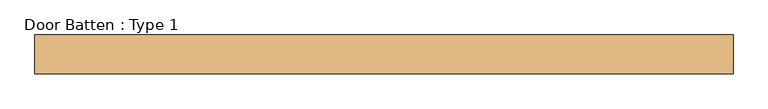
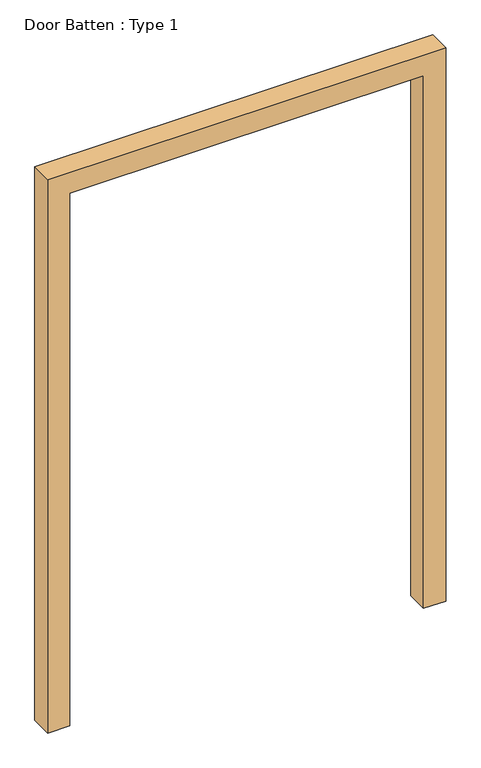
"""IFC4 building model written with IfcOpenShell, lengths in millimetres: door geometry, Door Batten : Type 1."""

from ifc_helpers import new_model, si_unit, frame, origin, place, context, project, spatial, polyline, outline, extrude, source, transform, mapped, element, save


def door_batten_type_1_29d7f2da(model_context):
    return source(origin(), model_context, "Body", "SweptSolid", [
        extrude(outline(polyline([(2708.8484214, -1676.0049952), (-2582.0199199, -1676.0049952), (-2582.0199199, -1476.0049952), (2508.8484214, -1476.0049952), (2508.8484214, 1726.0049952), (-2582.0199199, 1726.0049952), (-2582.0199199, 1926.0049952), (2708.8484214, 1926.0049952), (2708.8484214, -1676.0049952)])), frame((0.0, -310.0, 0.0), z_axis=(0.0, 1.0, 0.0), x_axis=(0.0, 0.0, 1.0)), (0.0, 0.0, 1.0), 200.0),
    ])


if __name__ == "__main__":
    model = new_model("IFC4")
    model_context = context("Model", 3, world=origin())
    ifc_project = project(units=[si_unit("LENGTHUNIT", "METRE", prefix="MILLI")], contexts=[model_context])
    site = spatial("IfcSite", under=ifc_project)
    building = spatial("IfcBuilding", under=site)
    placement = place(None, origin())
    door_batten_type_1_shape = door_batten_type_1_29d7f2da(model_context)
    element("IfcDoor", 1, ObjectType="Door Batten : Type 1", at=placement, inside=building, context=model_context, shape_type="MappedRepresentation", body=[
        mapped(door_batten_type_1_shape, transform((0.0, 0.0, 0.0), x_axis=(1.0, 0.0, 0.0), y_axis=(0.0, 1.0, 0.0), z_axis=(0.0, 0.0, 1.0))),
    ])
    save(model, "model.ifc")
